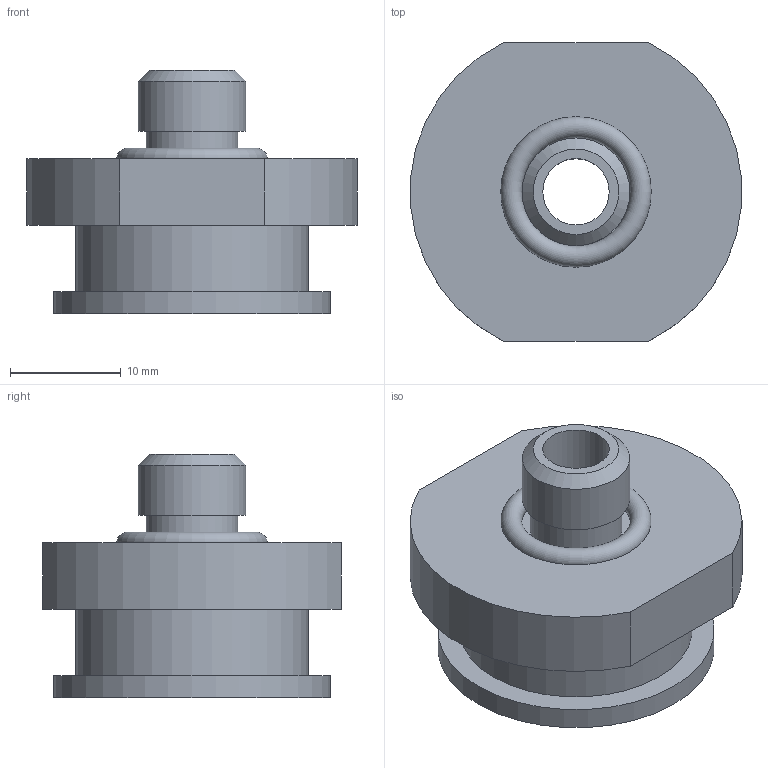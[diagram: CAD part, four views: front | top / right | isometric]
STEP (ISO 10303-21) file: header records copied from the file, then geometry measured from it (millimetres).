
FILE_DESCRIPTION(('STEP AP214'),'1');
FILE_NAME('.stp','2024-08-29T05:33:25',(' '),(' '),'Spatial InterOp 3D',' ',' ');
FILE_SCHEMA(('AUTOMOTIVE_DESIGN { 1 0 10303 214 1 1 1 1 }'));
Length unit declared in the file: millimetre
Products named in the file (2): HGL-40-G1-K; パーツ4
Assembly tree (1 placements, depth 2):
  HGL-40-G1-K
    パーツ4
Bounding box: 29.89 x 27 x 22 mm (x, y, z)
Volume: 6575.5 mm3; surface area: 3633.1 mm2
Topology: 1 solids, 2 shells, 23 faces, 43 edges, 29 vertices
Faces by surface type: plane 11, cylinder 9, torus 2, cone 1
Full cylindrical faces by diameter (mm): 6 x1, 8.3 x1, 9.728 x1, 10 x1, 12.5 x1, 21 x1, 25 x1
Entity records: 743 total; most frequent: DIRECTION 102, CARTESIAN_POINT 81, ORIENTED_EDGE 60, AXIS2_PLACEMENT_3D 47, EDGE_LOOP 42, FACE_OUTER_BOUND 32, EDGE_CURVE 30, VERTEX_POINT 26
